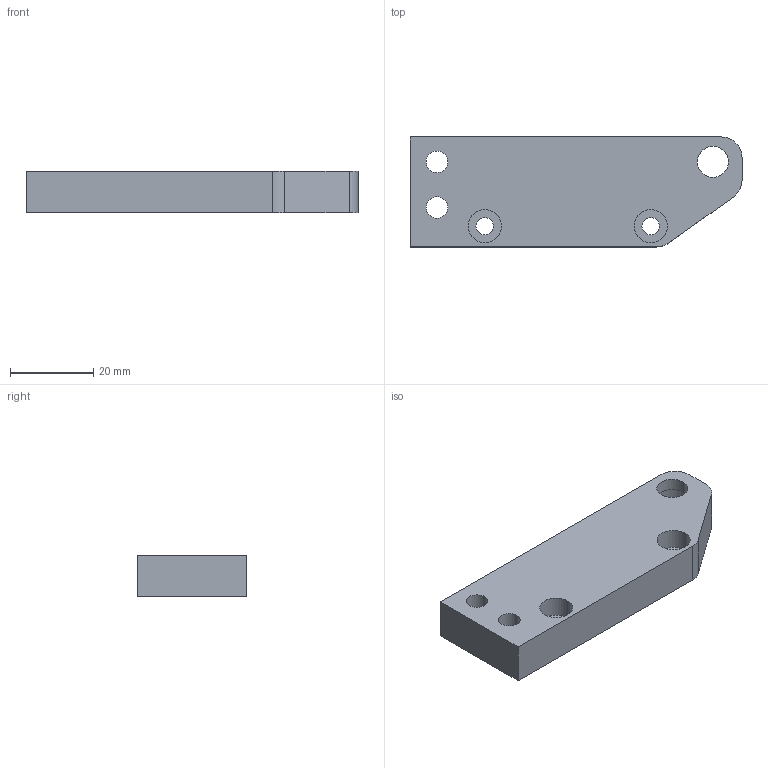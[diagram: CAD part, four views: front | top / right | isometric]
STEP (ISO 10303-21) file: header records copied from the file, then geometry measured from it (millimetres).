
FILE_DESCRIPTION (( 'STEP AP203' ), '1' );
FILE_NAME ('FB-003-26C蟀諉耜啣衵.STEP', '2025-03-19T04:23:16', ( 'Windows 蚚誧' ), ( 'Organization' ), 'SwSTEP 2.0', 'SolidWorks 2020', '' );
FILE_SCHEMA (( 'CONFIG_CONTROL_DESIGN' ));
Length unit declared in the file: millimetre
Products named in the file (1): FB-003-26C蟀諉耜啣衵
Bounding box: 80 x 26.5 x 10 mm (x, y, z)
Volume: 17537.6 mm3; surface area: 6903 mm2
Topology: 1 solids, 1 shells, 38 faces, 90 edges, 60 vertices
Faces by surface type: cylinder 25, plane 13
Entity records: 1221 total; most frequent: DIRECTION 218, CARTESIAN_POINT 189, ORIENTED_EDGE 180, EDGE_CURVE 90, AXIS2_PLACEMENT_3D 89, VERTEX_POINT 60, EDGE_LOOP 54, CIRCLE 50
